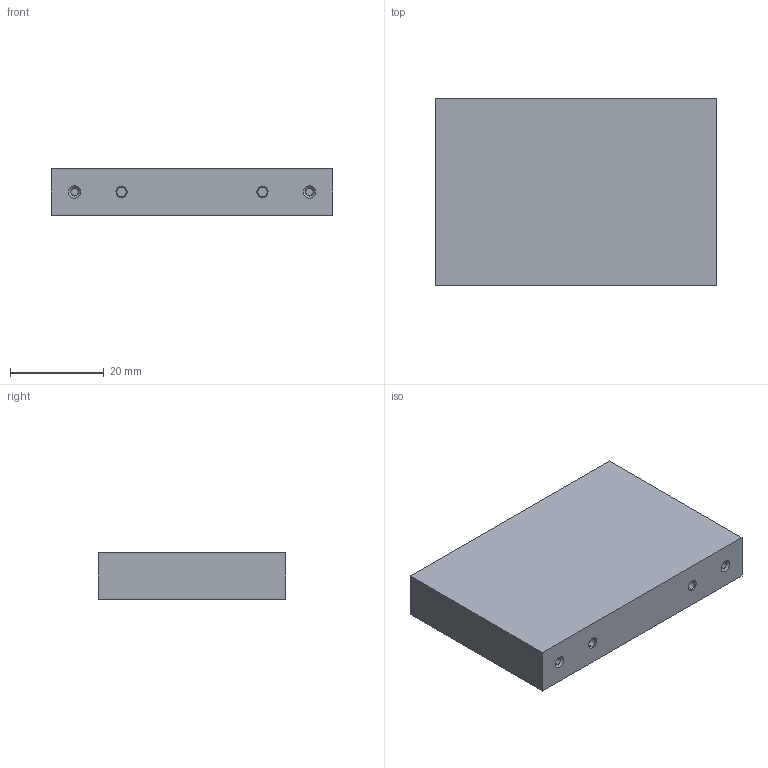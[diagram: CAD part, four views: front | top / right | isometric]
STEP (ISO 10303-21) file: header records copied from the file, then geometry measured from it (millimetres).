
FILE_DESCRIPTION (( 'STEP AP214' ), '1' );
FILE_NAME ('C4.STEP', '2016-02-27T11:54:38', ( '' ), ( '' ), 'SwSTEP 2.0', 'SolidWorks 2012', '' );
FILE_SCHEMA (( 'AUTOMOTIVE_DESIGN' ));
Length unit declared in the file: millimetre
Products named in the file (1): C4
Bounding box: 60 x 40 x 10 mm (x, y, z)
Volume: 23788.7 mm3; surface area: 7255.1 mm2
Topology: 1 solids, 1 shells, 86 faces, 200 edges, 128 vertices
Faces by surface type: plane 45, cone 16, cylinder 16, bspline 9
Entity records: 3004 total; most frequent: CARTESIAN_POINT 1024, ORIENTED_EDGE 400, DIRECTION 386, EDGE_CURVE 200, LINE 134, VECTOR 134, VERTEX_POINT 128, AXIS2_PLACEMENT_3D 126
